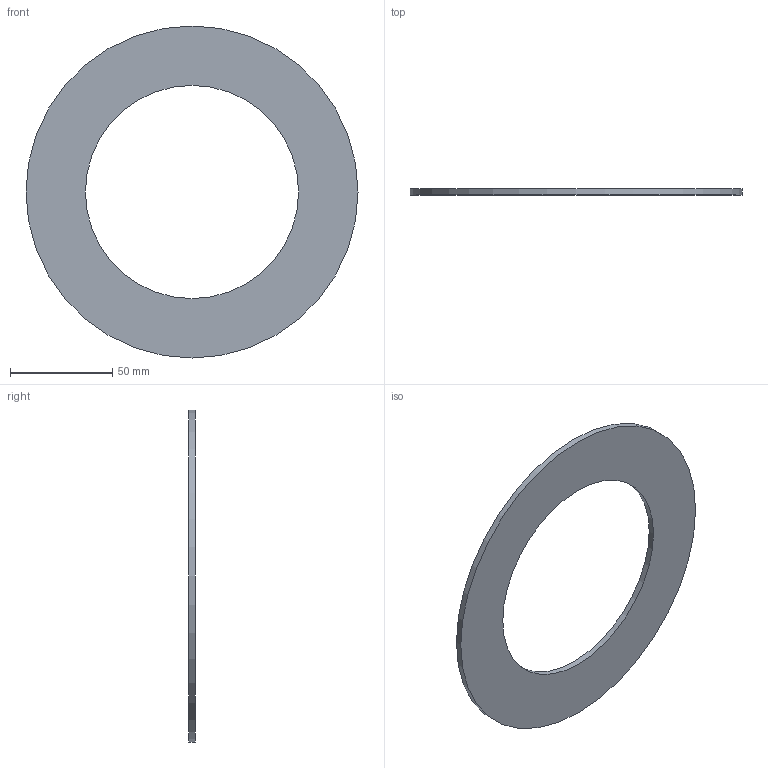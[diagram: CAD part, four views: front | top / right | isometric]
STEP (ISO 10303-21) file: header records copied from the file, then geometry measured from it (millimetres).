
FILE_DESCRIPTION(/* description */ ('Unknown'),/* implementation_level */ '2;1');
FILE_NAME(/* name */ 'GUA.125C',/* time_stamp */ '2021-04-01T11:37:05+02:00',/* author */ ('Unknown'),/* organization */ ('Unknown'),/* preprocessor_version */ 'ST-DEVELOPER v16.7',/* originating_system */ 'Solid Edge',/* authorisation */ 'Unknown');
FILE_SCHEMA (('AUTOMOTIVE_DESIGN {1 0 10303 214 3 1 1}'));
Length unit declared in the file: millimetre
Products named in the file (1): GUA.125C
Bounding box: 162 x 3 x 162 mm (x, y, z)
Volume: 36351.4 mm3; surface area: 26741.2 mm2
Topology: 1 solids, 1 shells, 4 faces, 6 edges, 4 vertices
Faces by surface type: cylinder 2, plane 2
Full cylindrical faces by diameter (mm): 104 x1, 162 x1
Entity records: 118 total; most frequent: DIRECTION 18, CARTESIAN_POINT 13, AXIS2_PLACEMENT_3D 9, ORIENTED_EDGE 8, EDGE_LOOP 8, FACE_BOUND 8, EDGE_CURVE 4, VERTEX_POINT 4
